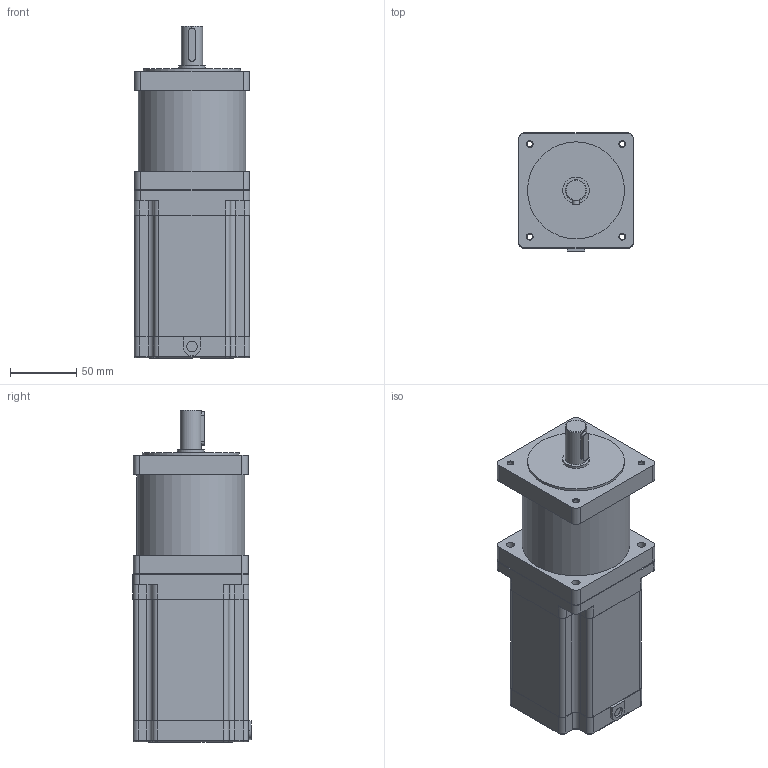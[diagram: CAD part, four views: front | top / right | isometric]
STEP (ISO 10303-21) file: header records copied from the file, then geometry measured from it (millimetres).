
FILE_DESCRIPTION(/* description */ (''),/* implementation_level */ '2;1');
FILE_NAME(/* name */ '\\JOINapp01\Profiles\martins\Desktop\MOTO REDUTORES MP\KTC-KML093-F07-R16.step',/* time_stamp */ '2018-03-29T08:12:30-03:00',/* author */ ('martins'),/* organization */ (''),/* preprocessor_version */ 'ST-DEVELOPER v16.1',/* originating_system */ 'Autodesk Inventor 2016',/* authorisation */ '');
FILE_SCHEMA (('AUTOMOTIVE_DESIGN { 1 0 10303 214 3 1 1 }'));
Length unit declared in the file: millimetre
Products named in the file (1): KTC-KML093-F07-R16
Bounding box: 87 x 88.85 x 249.8 mm (x, y, z)
Volume: 1374580.2 mm3; surface area: 93292.1 mm2
Topology: 1 solids, 2 shells, 513 faces, 1360 edges, 892 vertices
Faces by surface type: plane 280, bspline 121, cylinder 87, torus 16, cone 9
Full cylindrical faces by diameter (mm): 4.134 x4, 5.5 x5, 6.1 x3, 8 x1, 12.7 x2, 16 x1, 20 x1, 35 x1, 73 x1, 81 x1
Entity records: 16712 total; most frequent: CARTESIAN_POINT 4690, ORIENTED_EDGE 2646, DIRECTION 2055, EDGE_CURVE 1323, LINE 889, VECTOR 889, VERTEX_POINT 884, EDGE_LOOP 601
